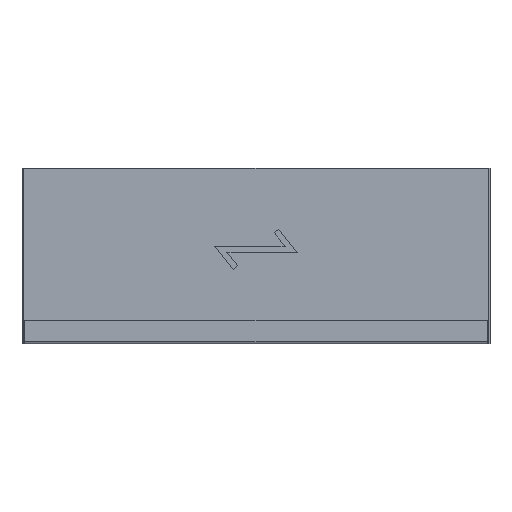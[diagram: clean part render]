
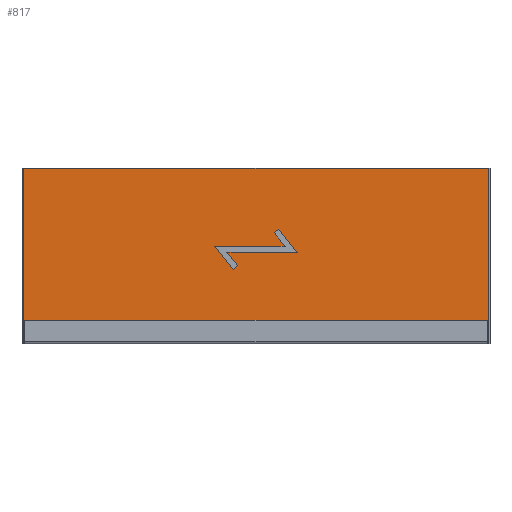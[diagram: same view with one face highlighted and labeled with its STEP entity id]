
A CAD part, top view. The second image highlights one B-rep face of the part: STEP entity #817.
In plain terms, the highlighted planar face has unit normal (0, 0, 1) as drawn and (0, 1, 0) by its records, which use the part's own axes.
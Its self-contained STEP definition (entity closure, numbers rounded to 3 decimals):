
#10 = DIRECTION ( 'NONE',  ( -0.781, 0., 0.625 ) ) ;
#55 = CARTESIAN_POINT ( 'NONE',  ( -138.5, 25., -397. ) ) ;
#82 = ORIENTED_EDGE ( 'NONE', *, *, #88, .F. ) ;
#88 = EDGE_CURVE ( 'NONE', #557, #253, #845, .T. ) ;
#90 = ORIENTED_EDGE ( 'NONE', *, *, #375, .T. ) ;
#91 = CARTESIAN_POINT ( 'NONE',  ( -5., 25., -60. ) ) ;
#95 = DIRECTION ( 'NONE',  ( 0., 0., -1. ) ) ;
#107 = LINE ( 'NONE', #1541, #1520 ) ;
#113 = VECTOR ( 'NONE', #1696, 1000. ) ;
#136 = LINE ( 'NONE', #954, #1783 ) ;
#140 = ORIENTED_EDGE ( 'NONE', *, *, #1611, .F. ) ;
#152 = CARTESIAN_POINT ( 'NONE',  ( -3.125, 25., 56.097 ) ) ;
#182 = VECTOR ( 'NONE', #626, 1000. ) ;
#253 = VERTEX_POINT ( 'NONE', #861 ) ;
#254 = LINE ( 'NONE', #1091, #1944 ) ;
#259 = FACE_BOUND ( 'NONE', #898, .T. ) ;
#287 = VECTOR ( 'NONE', #1876, 1000. ) ;
#301 = PLANE ( 'NONE',  #1432 ) ;
#302 = EDGE_CURVE ( 'NONE', #1599, #1045, #107, .T. ) ;
#344 = CARTESIAN_POINT ( 'NONE',  ( 34.35, 25., 38.903 ) ) ;
#347 = DIRECTION ( 'NONE',  ( -0.781, 0., 0.625 ) ) ;
#375 = EDGE_CURVE ( 'NONE', #1676, #1690, #1740, .T. ) ;
#379 = VECTOR ( 'NONE', #347, 1000. ) ;
#451 = CARTESIAN_POINT ( 'NONE',  ( -34.35, 25., -38.903 ) ) ;
#502 = LINE ( 'NONE', #152, #379 ) ;
#524 = VERTEX_POINT ( 'NONE', #1750 ) ;
#557 = VERTEX_POINT ( 'NONE', #676 ) ;
#570 = VERTEX_POINT ( 'NONE', #1316 ) ;
#571 = DIRECTION ( 'NONE',  ( -0.781, 0., 0.625 ) ) ;
#606 = FACE_OUTER_BOUND ( 'NONE', #1875, .T. ) ;
#614 = ORIENTED_EDGE ( 'NONE', *, *, #1498, .F. ) ;
#626 = DIRECTION ( 'NONE',  ( 0., 0., 1. ) ) ;
#628 = DIRECTION ( 'NONE',  ( 0., 0., -1. ) ) ;
#657 = VERTEX_POINT ( 'NONE', #1629 ) ;
#676 = CARTESIAN_POINT ( 'NONE',  ( 34.35, 25., 38.903 ) ) ;
#732 = LINE ( 'NONE', #91, #1098 ) ;
#734 = ORIENTED_EDGE ( 'NONE', *, *, #1509, .F. ) ;
#757 = CARTESIAN_POINT ( 'NONE',  ( 3.125, 25., 63.903 ) ) ;
#770 = DIRECTION ( 'NONE',  ( -0.781, 0., 0.625 ) ) ;
#808 = ORIENTED_EDGE ( 'NONE', *, *, #1252, .T. ) ;
#817 = ADVANCED_FACE ( 'NONE', ( #606, #259 ), #301, .F. ) ;
#845 = LINE ( 'NONE', #344, #1552 ) ;
#848 = DIRECTION ( 'NONE',  ( 1., 0., 0. ) ) ;
#861 = CARTESIAN_POINT ( 'NONE',  ( 28.1, 25., 31.097 ) ) ;
#879 = ORIENTED_EDGE ( 'NONE', *, *, #302, .T. ) ;
#883 = DIRECTION ( 'NONE',  ( 0., -1., 0. ) ) ;
#898 = EDGE_LOOP ( 'NONE', ( #879, #140, #614, #734, #2016, #82, #1347, #1342 ) ) ;
#899 = LINE ( 'NONE', #757, #1880 ) ;
#903 = VECTOR ( 'NONE', #628, 1000. ) ;
#954 = CARTESIAN_POINT ( 'NONE',  ( -3.125, 25., -63.903 ) ) ;
#975 = LINE ( 'NONE', #2014, #182 ) ;
#1013 = CARTESIAN_POINT ( 'NONE',  ( -34.35, 25., -38.903 ) ) ;
#1045 = VERTEX_POINT ( 'NONE', #1898 ) ;
#1076 = CARTESIAN_POINT ( 'NONE',  ( 0., 25., 0. ) ) ;
#1091 = CARTESIAN_POINT ( 'NONE',  ( -138.5, 25., -397. ) ) ;
#1098 = VECTOR ( 'NONE', #1344, 1000. ) ;
#1102 = CARTESIAN_POINT ( 'NONE',  ( 5., 25., -60. ) ) ;
#1104 = EDGE_CURVE ( 'NONE', #253, #524, #502, .T. ) ;
#1109 = EDGE_CURVE ( 'NONE', #1198, #1489, #975, .T. ) ;
#1177 = VERTEX_POINT ( 'NONE', #1013 ) ;
#1198 = VERTEX_POINT ( 'NONE', #55 ) ;
#1252 = EDGE_CURVE ( 'NONE', #1489, #1676, #1333, .T. ) ;
#1257 = CARTESIAN_POINT ( 'NONE',  ( 138.5, 25., 397. ) ) ;
#1316 = CARTESIAN_POINT ( 'NONE',  ( 5., 25., -70.408 ) ) ;
#1333 = LINE ( 'NONE', #1905, #1488 ) ;
#1342 = ORIENTED_EDGE ( 'NONE', *, *, #1349, .T. ) ;
#1344 = DIRECTION ( 'NONE',  ( 0., 0., -1. ) ) ;
#1347 = ORIENTED_EDGE ( 'NONE', *, *, #1415, .T. ) ;
#1349 = EDGE_CURVE ( 'NONE', #657, #1599, #732, .T. ) ;
#1415 = EDGE_CURVE ( 'NONE', #557, #657, #899, .T. ) ;
#1418 = CARTESIAN_POINT ( 'NONE',  ( -5., 25., -49.592 ) ) ;
#1432 = AXIS2_PLACEMENT_3D ( 'NONE', #1076, #883, #95 ) ;
#1441 = CARTESIAN_POINT ( 'NONE',  ( 138.5, 25., 397. ) ) ;
#1488 = VECTOR ( 'NONE', #848, 1000. ) ;
#1489 = VERTEX_POINT ( 'NONE', #1490 ) ;
#1490 = CARTESIAN_POINT ( 'NONE',  ( -138.5, 25., 397. ) ) ;
#1493 = EDGE_CURVE ( 'NONE', #1690, #1198, #254, .T. ) ;
#1498 = EDGE_CURVE ( 'NONE', #570, #1177, #136, .T. ) ;
#1509 = EDGE_CURVE ( 'NONE', #524, #570, #2011, .T. ) ;
#1520 = VECTOR ( 'NONE', #770, 1000. ) ;
#1540 = ORIENTED_EDGE ( 'NONE', *, *, #1493, .T. ) ;
#1541 = CARTESIAN_POINT ( 'NONE',  ( 3.125, 25., -56.097 ) ) ;
#1552 = VECTOR ( 'NONE', #1784, 1000. ) ;
#1575 = CARTESIAN_POINT ( 'NONE',  ( 138.5, 25., -397. ) ) ;
#1599 = VERTEX_POINT ( 'NONE', #1418 ) ;
#1611 = EDGE_CURVE ( 'NONE', #1177, #1045, #1706, .T. ) ;
#1629 = CARTESIAN_POINT ( 'NONE',  ( -5., 25., 70.408 ) ) ;
#1676 = VERTEX_POINT ( 'NONE', #1257 ) ;
#1690 = VERTEX_POINT ( 'NONE', #1575 ) ;
#1696 = DIRECTION ( 'NONE',  ( 0., 0., -1. ) ) ;
#1706 = LINE ( 'NONE', #451, #287 ) ;
#1716 = DIRECTION ( 'NONE',  ( -1., 0., 0. ) ) ;
#1740 = LINE ( 'NONE', #1441, #903 ) ;
#1750 = CARTESIAN_POINT ( 'NONE',  ( 5., 25., 49.592 ) ) ;
#1783 = VECTOR ( 'NONE', #10, 1000. ) ;
#1784 = DIRECTION ( 'NONE',  ( -0.625, 0., -0.781 ) ) ;
#1809 = ORIENTED_EDGE ( 'NONE', *, *, #1109, .T. ) ;
#1875 = EDGE_LOOP ( 'NONE', ( #90, #1540, #1809, #808 ) ) ;
#1876 = DIRECTION ( 'NONE',  ( 0.625, 0., 0.781 ) ) ;
#1880 = VECTOR ( 'NONE', #571, 1000. ) ;
#1898 = CARTESIAN_POINT ( 'NONE',  ( -28.1, 25., -31.097 ) ) ;
#1905 = CARTESIAN_POINT ( 'NONE',  ( -138.5, 25., 397. ) ) ;
#1944 = VECTOR ( 'NONE', #1716, 1000. ) ;
#2011 = LINE ( 'NONE', #1102, #113 ) ;
#2014 = CARTESIAN_POINT ( 'NONE',  ( -138.5, 25., 397. ) ) ;
#2016 = ORIENTED_EDGE ( 'NONE', *, *, #1104, .F. ) ;
